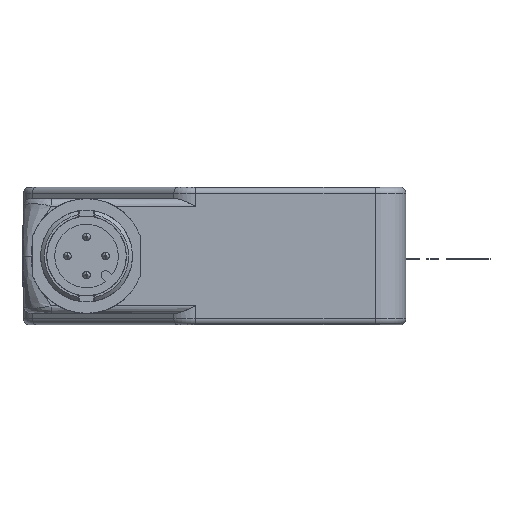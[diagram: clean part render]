
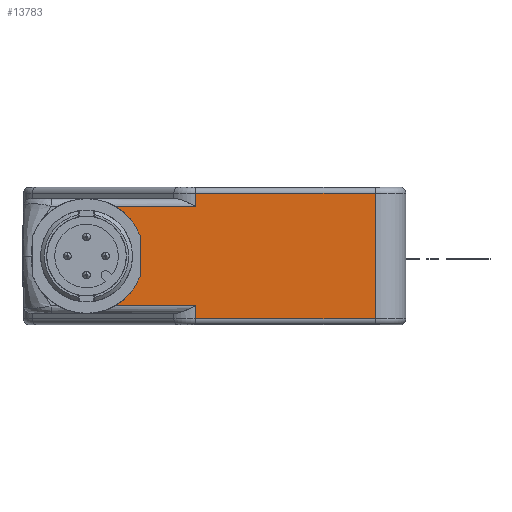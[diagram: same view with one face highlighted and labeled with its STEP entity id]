
A CAD part, front view. The second image highlights one B-rep face of the part: STEP entity #13783.
In plain terms, the highlighted planar face has unit normal (0, -1, 0).
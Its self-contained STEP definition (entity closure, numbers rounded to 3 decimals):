
#1826=DIRECTION('',(-1.,0.,0.));
#1827=VECTOR('',#1826,23.515);
#1828=CARTESIAN_POINT('',(75.455,88.595,-8.4));
#1829=LINE('',#1828,#1827);
#2590=DIRECTION('',(1.,0.,0.));
#2591=VECTOR('',#2590,23.515);
#2592=CARTESIAN_POINT('',(51.941,88.595,8.));
#2593=LINE('',#2592,#2591);
#2611=CARTESIAN_POINT('',(51.941,88.595,8.));
#3078=DIRECTION('',(1.,0.,0.));
#3079=VECTOR('',#3078,10.49);
#3080=CARTESIAN_POINT('',(41.45,88.595,6.3));
#3081=LINE('',#3080,#3079);
#3105=CARTESIAN_POINT('',(37.709,88.595,
-0.2));
#3106=DIRECTION('',(0.,1.,0.));
#3107=DIRECTION('',(0.933,0.,-0.359));
#3108=AXIS2_PLACEMENT_3D('',#3105,#3106,#3107);
#3113=DIRECTION('',(0.,0.,-1.));
#3114=VECTOR('',#3113,5.385);
#3115=CARTESIAN_POINT('',(44.709,88.595,2.493));
#3116=LINE('',#3115,#3114);
#3120=CARTESIAN_POINT('',(37.709,88.595,-0.2));
#3121=DIRECTION('',(0.,1.,0.));
#3122=DIRECTION('',(0.499,0.,0.867));
#3123=AXIS2_PLACEMENT_3D('',#3120,#3121,#3122);
#3128=DIRECTION('',(0.,0.,1.));
#3129=VECTOR('',#3128,1.7);
#3130=CARTESIAN_POINT('',(51.941,88.595,6.3));
#3131=LINE('',#3130,#3129);
#3135=CARTESIAN_POINT('',(51.941,88.595,6.3));
#3187=DIRECTION('',(0.,0.,-1.));
#3188=VECTOR('',#3187,16.4);
#3189=CARTESIAN_POINT('',(75.455,88.595,8.));
#3190=LINE('',#3189,#3188);
#6820=DIRECTION('',(0.,0.,1.));
#6821=VECTOR('',#6820,1.7);
#6822=CARTESIAN_POINT('',(51.941,88.595,-8.4));
#6823=LINE('',#6822,#6821);
#7089=CARTESIAN_POINT('',(41.45,88.595,6.3));
#7316=CARTESIAN_POINT('',(41.45,88.595,-6.7));
#7321=DIRECTION('',(-1.,0.,0.));
#7322=VECTOR('',#7321,10.49);
#7323=CARTESIAN_POINT('',(51.941,88.595,-6.7));
#7324=LINE('',#7323,#7322);
#7328=CARTESIAN_POINT('',(51.941,88.595,-6.7));
#9621=VERTEX_POINT('',#7089);
#9626=VERTEX_POINT('',#7316);
#9631=VERTEX_POINT('',#7328);
#9639=VERTEX_POINT('',#3135);
#10396=CARTESIAN_POINT('',(44.709,88.595,2.493));
#10397=VERTEX_POINT('',#10396);
#10398=CARTESIAN_POINT('',(44.709,88.595,
-2.893));
#10399=VERTEX_POINT('',#10398);
#10425=VERTEX_POINT('',#2611);
#10426=CARTESIAN_POINT('',(75.455,88.595,8.));
#10427=VERTEX_POINT('',#10426);
#10428=CARTESIAN_POINT('',(75.455,88.595,-8.4));
#10429=VERTEX_POINT('',#10428);
#10430=CARTESIAN_POINT('',(51.941,88.595,-8.4));
#10431=VERTEX_POINT('',#10430);
#13759=CARTESIAN_POINT('',(58.453,88.595,-0.2));
#13760=DIRECTION('',(0.,1.,0.));
#13761=DIRECTION('',(-1.,0.,0.));
#13762=AXIS2_PLACEMENT_3D('',#13759,#13760,#13761);
#13763=PLANE('',#13762);
#13764=ORIENTED_EDGE('',*,*,#13743,.T.);
#13766=ORIENTED_EDGE('',*,*,#13765,.T.);
#13767=ORIENTED_EDGE('',*,*,#13441,.T.);
#13769=ORIENTED_EDGE('',*,*,#13768,.T.);
#13770=ORIENTED_EDGE('',*,*,#12901,.T.);
#13772=ORIENTED_EDGE('',*,*,#13771,.T.);
#13774=ORIENTED_EDGE('',*,*,#13773,.T.);
#13776=ORIENTED_EDGE('',*,*,#13775,.F.);
#13778=ORIENTED_EDGE('',*,*,#13777,.F.);
#13780=ORIENTED_EDGE('',*,*,#13779,.F.);
#13781=EDGE_LOOP('',(#13764,#13766,#13767,#13769,#13770,#13772,#13774,#13776,
#13778,#13780));
#13782=FACE_OUTER_BOUND('',#13781,.F.);
#3109=CIRCLE('',#3108,7.5);
#3124=CIRCLE('',#3123,7.5);
#12901=EDGE_CURVE('',#10429,#10431,#1829,.T.);
#13441=EDGE_CURVE('',#10425,#10427,#2593,.T.);
#13743=EDGE_CURVE('',#9621,#9639,#3081,.T.);
#13765=EDGE_CURVE('',#9639,#10425,#3131,.T.);
#13768=EDGE_CURVE('',#10427,#10429,#3190,.T.);
#13771=EDGE_CURVE('',#10431,#9631,#6823,.T.);
#13773=EDGE_CURVE('',#9631,#9626,#7324,.T.);
#13775=EDGE_CURVE('',#10399,#9626,#3109,.T.);
#13777=EDGE_CURVE('',#10397,#10399,#3116,.T.);
#13779=EDGE_CURVE('',#9621,#10397,#3124,.T.);
#13783=ADVANCED_FACE('',(#13782),#13763,.F.);
